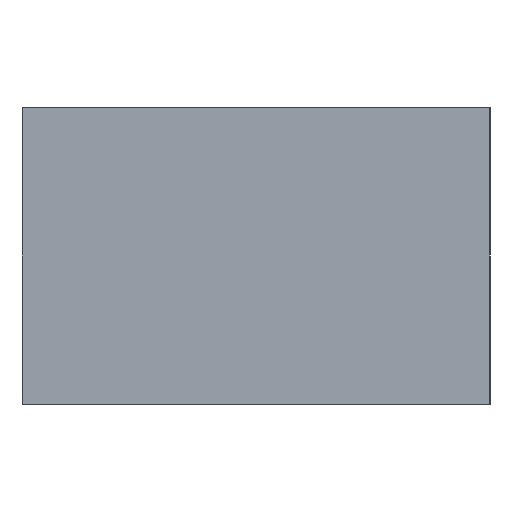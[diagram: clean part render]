
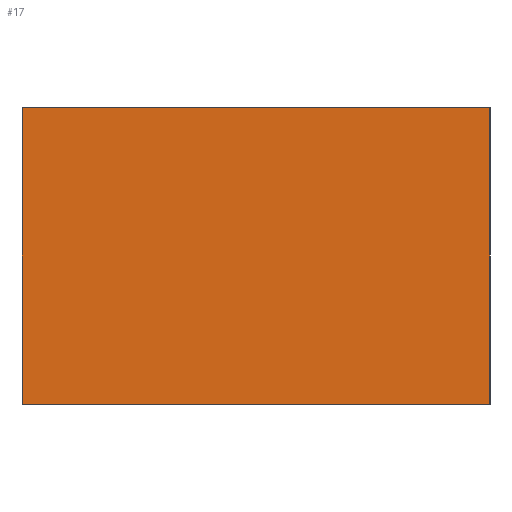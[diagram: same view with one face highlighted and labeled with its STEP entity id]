
A CAD part, left-side view. The second image highlights one B-rep face of the part: STEP entity #17.
In plain terms, the highlighted planar face has unit normal (-1, 0, 0).
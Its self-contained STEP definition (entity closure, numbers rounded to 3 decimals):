
#17 = ADVANCED_FACE('',(#18),#32,.F.);
#18 = FACE_BOUND('',#19,.F.);
#19 = EDGE_LOOP('',(#20,#55,#83,#111));
#20 = ORIENTED_EDGE('',*,*,#21,.F.);
#21 = EDGE_CURVE('',#22,#24,#26,.T.);
#22 = VERTEX_POINT('',#23);
#23 = CARTESIAN_POINT('',(-50.,-30.,0.));
#24 = VERTEX_POINT('',#25);
#25 = CARTESIAN_POINT('',(-50.,-30.,38.));
#26 = SURFACE_CURVE('',#27,(#31,#43),.PCURVE_S1.);
#27 = LINE('',#28,#29);
#28 = CARTESIAN_POINT('',(-50.,-30.,0.));
#29 = VECTOR('',#30,1.);
#30 = DIRECTION('',(0.,0.,1.));
#31 = PCURVE('',#32,#37);
#32 = PLANE('',#33);
#33 = AXIS2_PLACEMENT_3D('',#34,#35,#36);
#34 = CARTESIAN_POINT('',(-50.,-30.,0.));
#35 = DIRECTION('',(1.,0.,0.));
#36 = DIRECTION('',(0.,0.,1.));
#37 = DEFINITIONAL_REPRESENTATION('',(#38),#42);
#38 = LINE('',#39,#40);
#39 = CARTESIAN_POINT('',(0.,0.));
#40 = VECTOR('',#41,1.);
#41 = DIRECTION('',(1.,0.));
#42 = ( GEOMETRIC_REPRESENTATION_CONTEXT(2) 
PARAMETRIC_REPRESENTATION_CONTEXT() REPRESENTATION_CONTEXT('2D SPACE',''
  ) );
#43 = PCURVE('',#44,#49);
#44 = PLANE('',#45);
#45 = AXIS2_PLACEMENT_3D('',#46,#47,#48);
#46 = CARTESIAN_POINT('',(-50.,-30.,0.));
#47 = DIRECTION('',(0.,1.,0.));
#48 = DIRECTION('',(0.,0.,1.));
#49 = DEFINITIONAL_REPRESENTATION('',(#50),#54);
#50 = LINE('',#51,#52);
#51 = CARTESIAN_POINT('',(0.,0.));
#52 = VECTOR('',#53,1.);
#53 = DIRECTION('',(1.,0.));
#54 = ( GEOMETRIC_REPRESENTATION_CONTEXT(2) 
PARAMETRIC_REPRESENTATION_CONTEXT() REPRESENTATION_CONTEXT('2D SPACE',''
  ) );
#55 = ORIENTED_EDGE('',*,*,#56,.T.);
#56 = EDGE_CURVE('',#22,#57,#59,.T.);
#57 = VERTEX_POINT('',#58);
#58 = CARTESIAN_POINT('',(-50.,30.,0.));
#59 = SURFACE_CURVE('',#60,(#64,#71),.PCURVE_S1.);
#60 = LINE('',#61,#62);
#61 = CARTESIAN_POINT('',(-50.,-30.,0.));
#62 = VECTOR('',#63,1.);
#63 = DIRECTION('',(0.,1.,0.));
#64 = PCURVE('',#32,#65);
#65 = DEFINITIONAL_REPRESENTATION('',(#66),#70);
#66 = LINE('',#67,#68);
#67 = CARTESIAN_POINT('',(0.,0.));
#68 = VECTOR('',#69,1.);
#69 = DIRECTION('',(0.,-1.));
#70 = ( GEOMETRIC_REPRESENTATION_CONTEXT(2) 
PARAMETRIC_REPRESENTATION_CONTEXT() REPRESENTATION_CONTEXT('2D SPACE',''
  ) );
#71 = PCURVE('',#72,#77);
#72 = PLANE('',#73);
#73 = AXIS2_PLACEMENT_3D('',#74,#75,#76);
#74 = CARTESIAN_POINT('',(-50.,-30.,0.));
#75 = DIRECTION('',(0.,0.,1.));
#76 = DIRECTION('',(1.,0.,0.));
#77 = DEFINITIONAL_REPRESENTATION('',(#78),#82);
#78 = LINE('',#79,#80);
#79 = CARTESIAN_POINT('',(0.,0.));
#80 = VECTOR('',#81,1.);
#81 = DIRECTION('',(0.,1.));
#82 = ( GEOMETRIC_REPRESENTATION_CONTEXT(2) 
PARAMETRIC_REPRESENTATION_CONTEXT() REPRESENTATION_CONTEXT('2D SPACE',''
  ) );
#83 = ORIENTED_EDGE('',*,*,#84,.T.);
#84 = EDGE_CURVE('',#57,#85,#87,.T.);
#85 = VERTEX_POINT('',#86);
#86 = CARTESIAN_POINT('',(-50.,30.,38.));
#87 = SURFACE_CURVE('',#88,(#92,#99),.PCURVE_S1.);
#88 = LINE('',#89,#90);
#89 = CARTESIAN_POINT('',(-50.,30.,0.));
#90 = VECTOR('',#91,1.);
#91 = DIRECTION('',(0.,0.,1.));
#92 = PCURVE('',#32,#93);
#93 = DEFINITIONAL_REPRESENTATION('',(#94),#98);
#94 = LINE('',#95,#96);
#95 = CARTESIAN_POINT('',(0.,-60.));
#96 = VECTOR('',#97,1.);
#97 = DIRECTION('',(1.,0.));
#98 = ( GEOMETRIC_REPRESENTATION_CONTEXT(2) 
PARAMETRIC_REPRESENTATION_CONTEXT() REPRESENTATION_CONTEXT('2D SPACE',''
  ) );
#99 = PCURVE('',#100,#105);
#100 = PLANE('',#101);
#101 = AXIS2_PLACEMENT_3D('',#102,#103,#104);
#102 = CARTESIAN_POINT('',(-50.,30.,0.));
#103 = DIRECTION('',(0.,1.,0.));
#104 = DIRECTION('',(0.,0.,1.));
#105 = DEFINITIONAL_REPRESENTATION('',(#106),#110);
#106 = LINE('',#107,#108);
#107 = CARTESIAN_POINT('',(0.,0.));
#108 = VECTOR('',#109,1.);
#109 = DIRECTION('',(1.,0.));
#110 = ( GEOMETRIC_REPRESENTATION_CONTEXT(2) 
PARAMETRIC_REPRESENTATION_CONTEXT() REPRESENTATION_CONTEXT('2D SPACE',''
  ) );
#111 = ORIENTED_EDGE('',*,*,#112,.F.);
#112 = EDGE_CURVE('',#24,#85,#113,.T.);
#113 = SURFACE_CURVE('',#114,(#118,#125),.PCURVE_S1.);
#114 = LINE('',#115,#116);
#115 = CARTESIAN_POINT('',(-50.,-30.,38.));
#116 = VECTOR('',#117,1.);
#117 = DIRECTION('',(0.,1.,0.));
#118 = PCURVE('',#32,#119);
#119 = DEFINITIONAL_REPRESENTATION('',(#120),#124);
#120 = LINE('',#121,#122);
#121 = CARTESIAN_POINT('',(38.,0.));
#122 = VECTOR('',#123,1.);
#123 = DIRECTION('',(0.,-1.));
#124 = ( GEOMETRIC_REPRESENTATION_CONTEXT(2) 
PARAMETRIC_REPRESENTATION_CONTEXT() REPRESENTATION_CONTEXT('2D SPACE',''
  ) );
#125 = PCURVE('',#126,#131);
#126 = PLANE('',#127);
#127 = AXIS2_PLACEMENT_3D('',#128,#129,#130);
#128 = CARTESIAN_POINT('',(-50.,-30.,38.));
#129 = DIRECTION('',(0.,0.,1.));
#130 = DIRECTION('',(1.,0.,0.));
#131 = DEFINITIONAL_REPRESENTATION('',(#132),#136);
#132 = LINE('',#133,#134);
#133 = CARTESIAN_POINT('',(0.,0.));
#134 = VECTOR('',#135,1.);
#135 = DIRECTION('',(0.,1.));
#136 = ( GEOMETRIC_REPRESENTATION_CONTEXT(2) 
PARAMETRIC_REPRESENTATION_CONTEXT() REPRESENTATION_CONTEXT('2D SPACE',''
  ) );
